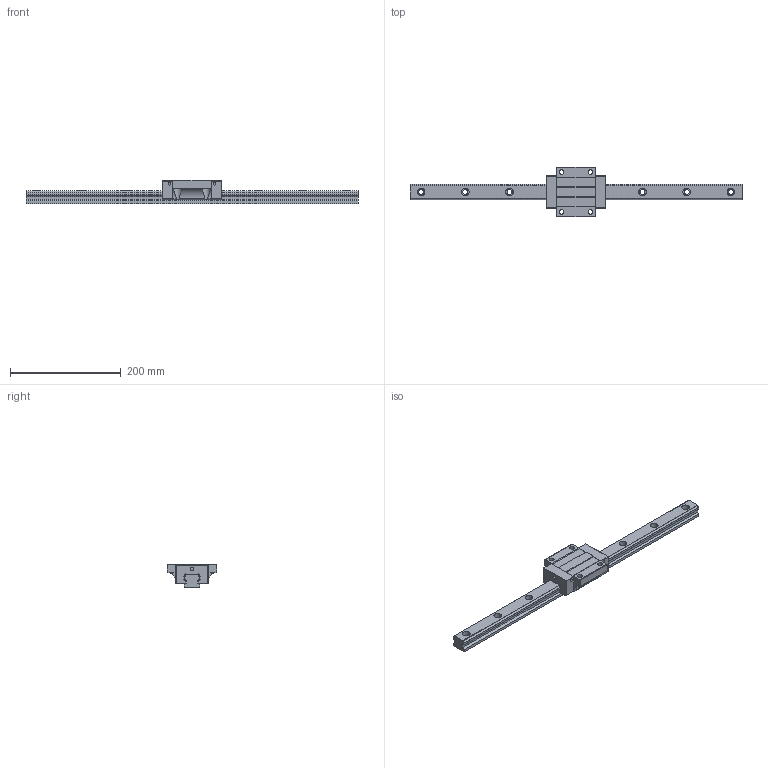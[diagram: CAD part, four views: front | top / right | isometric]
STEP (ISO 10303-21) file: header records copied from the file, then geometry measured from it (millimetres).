
FILE_DESCRIPTION (( 'STEP AP203' ), '1' );
FILE_NAME ('TRH30FN-WW.STEP', '2024-05-08T03:09:14', ( '' ), ( '' ), 'SwSTEP 2.0', 'SolidWorks 2022', '' );
FILE_SCHEMA (( 'CONFIG_CONTROL_DESIGN' ));
Length unit declared in the file: millimetre
Products named in the file (1): TRH30FN-WW
Bounding box: 600 x 90 x 42 mm (x, y, z)
Volume: 523232 mm3; surface area: 105754.4 mm2
Topology: 2 solids, 2 shells, 243 faces, 652 edges, 427 vertices
Faces by surface type: cylinder 132, plane 102, sphere 9
Entity records: 8482 total; most frequent: CARTESIAN_POINT 2189, DIRECTION 1308, ORIENTED_EDGE 1304, EDGE_CURVE 652, AXIS2_PLACEMENT_3D 471, VERTEX_POINT 427, LINE 366, VECTOR 366
